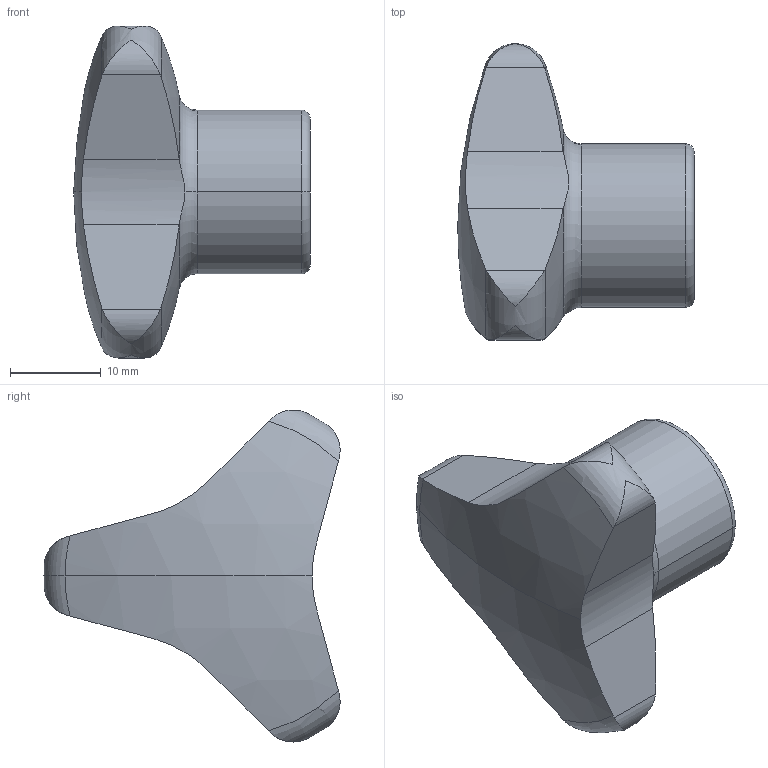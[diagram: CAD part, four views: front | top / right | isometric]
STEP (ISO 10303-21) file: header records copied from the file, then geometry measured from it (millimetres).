
FILE_DESCRIPTION (( 'STEP AP214' ), '1' );
FILE_NAME ('5345-40-M8-E.step', '2019-06-13T08:48:46', ( 'user' ), ( '' ), 'SwSTEP 2.0', 'SolidWorks 2019', '' );
FILE_SCHEMA (( 'AUTOMOTIVE_DESIGN' ));
Length unit declared in the file: millimetre
Products named in the file (1): 5345-40-M8-E
Bounding box: 26 x 32.56 x 36.49 mm (x, y, z)
Volume: 9078.1 mm3; surface area: 3385.4 mm2
Topology: 1 solids, 1 shells, 40 faces, 109 edges, 71 vertices
Faces by surface type: cylinder 16, torus 8, plane 8, sphere 6, cone 2
Entity records: 1547 total; most frequent: CARTESIAN_POINT 521, ORIENTED_EDGE 214, DIRECTION 195, EDGE_CURVE 107, AXIS2_PLACEMENT_3D 87, VERTEX_POINT 71, CIRCLE 46, EDGE_LOOP 42
